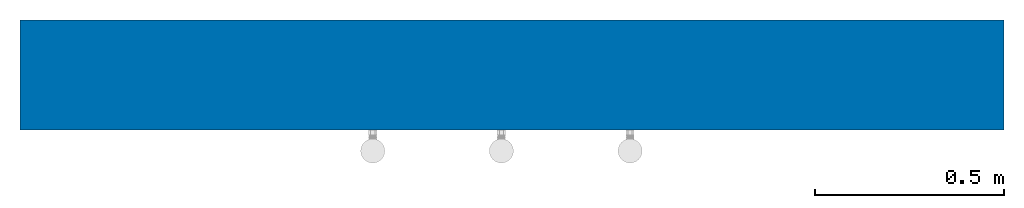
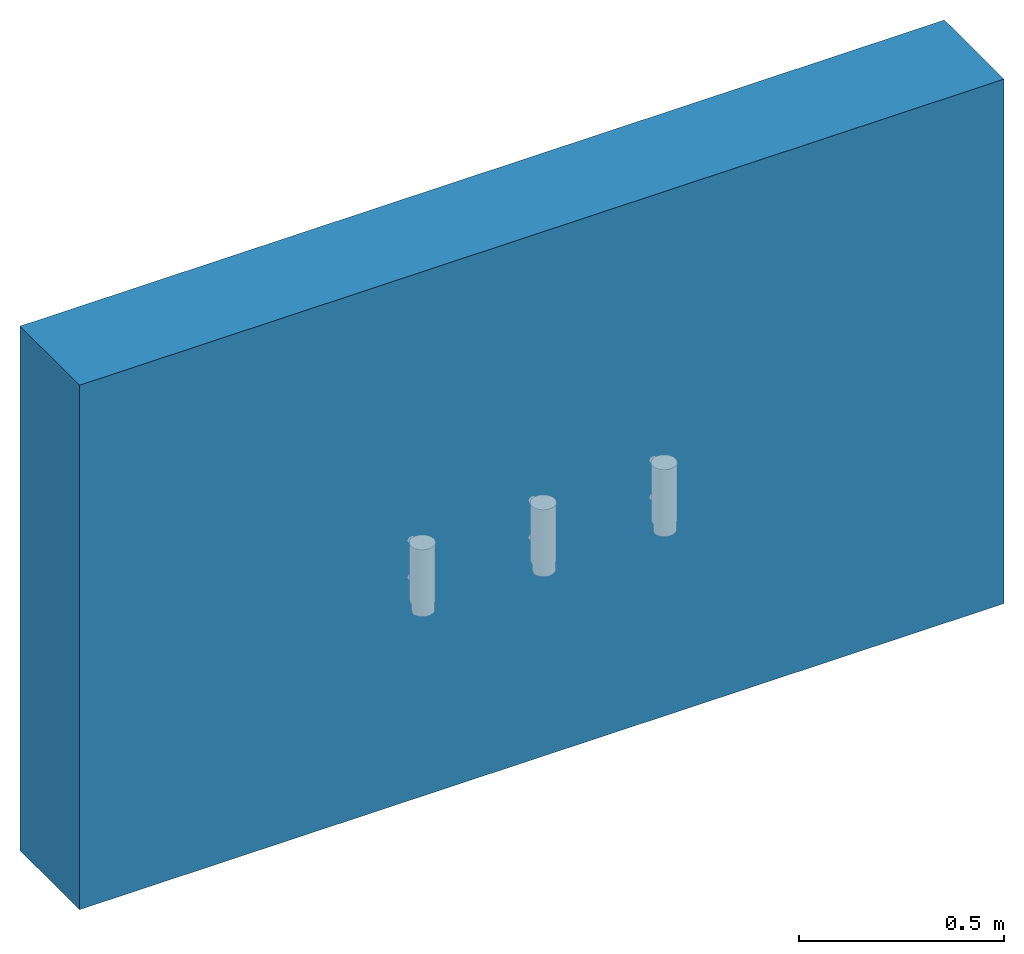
# One storey, incomplete: 1 wall.
"""IFC2X3 building model written with IfcOpenShell, lengths in millimetres."""

from ifc_helpers import new_model, entity, si_unit, converted_unit, derived_unit, direction, frame, frame_2d, origin, place, context, subcontext, project, spatial, rectangle, extrude, material, layer, layer_set, layer_usage, type_object, element, save


model = new_model("IFC2X3")

# Units and contexts
model_context = context("Model", 3, precision=0.01, world=origin(), true_north=direction((6.12303176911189e-17, 1.0)))
context_of_model = context(None, 3, precision=0.01, world=origin(), true_north=direction((6.12303176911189e-17, 1.0)))
body_context = subcontext(model_context, "Body", "Model", "MODEL_VIEW")
ifc_project = project(units=[si_unit("LENGTHUNIT", "METRE", prefix="MILLI"), si_unit("AREAUNIT", "SQUARE_METRE"), si_unit("VOLUMEUNIT", "CUBIC_METRE"), converted_unit("PLANEANGLEUNIT", "DEGREE", entity("IfcRatioMeasure", 0.0174532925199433), si_unit("PLANEANGLEUNIT", "RADIAN"), dimensions=[0, 0, 0, 0, 0, 0, 0]), si_unit("MASSUNIT", "GRAM", prefix="KILO"), derived_unit("MASSDENSITYUNIT", [(si_unit("MASSUNIT", "GRAM", prefix="KILO"), 1), (si_unit("LENGTHUNIT", "METRE"), -3)]), si_unit("TIMEUNIT", "SECOND"), si_unit("FREQUENCYUNIT", "HERTZ"), si_unit("THERMODYNAMICTEMPERATUREUNIT", "DEGREE_CELSIUS"), derived_unit("THERMALTRANSMITTANCEUNIT", [(si_unit("MASSUNIT", "GRAM", prefix="KILO"), 1), (si_unit("THERMODYNAMICTEMPERATUREUNIT", "KELVIN"), -1), (si_unit("TIMEUNIT", "SECOND"), -3)]), derived_unit("VOLUMETRICFLOWRATEUNIT", [(si_unit("LENGTHUNIT", "METRE"), 3), (si_unit("TIMEUNIT", "SECOND"), -1)]), si_unit("ELECTRICCURRENTUNIT", "AMPERE"), si_unit("ELECTRICVOLTAGEUNIT", "VOLT"), si_unit("POWERUNIT", "WATT"), si_unit("FORCEUNIT", "NEWTON", prefix="KILO"), si_unit("ILLUMINANCEUNIT", "LUX"), si_unit("LUMINOUSFLUXUNIT", "LUMEN"), si_unit("LUMINOUSINTENSITYUNIT", "CANDELA"), derived_unit("USERDEFINED", [(si_unit("MASSUNIT", "GRAM", prefix="KILO"), -1), (si_unit("LENGTHUNIT", "METRE"), -2), (si_unit("TIMEUNIT", "SECOND"), 3), (si_unit("LUMINOUSFLUXUNIT", "LUMEN"), 1)]), derived_unit("LINEARVELOCITYUNIT", [(si_unit("LENGTHUNIT", "METRE"), 1), (si_unit("TIMEUNIT", "SECOND"), -1)]), si_unit("PRESSUREUNIT", "PASCAL"), derived_unit("USERDEFINED", [(si_unit("LENGTHUNIT", "METRE"), -2), (si_unit("MASSUNIT", "GRAM", prefix="KILO"), 1), (si_unit("TIMEUNIT", "SECOND"), -2)])], contexts=[model_context, context_of_model])

# Site, building, storey
site_placement = place(None, origin())
site = spatial("IfcSite", under=ifc_project, at=site_placement, CompositionType="ELEMENT")
building_placement = place(site_placement, origin())
building = spatial("IfcBuilding", under=site, at=building_placement, Name="Project Number", CompositionType="ELEMENT")
storey_placement = place(building_placement, origin())
storey = spatial("IfcBuildingStorey", under=building, at=storey_placement, Name="Level 0", CompositionType="ELEMENT", Elevation=0.0)

# Wall
ifc_material_1 = material(Name="Brick, Common")
ifc_layer_1 = layer(ifc_material_1, 102.5)
ifc_material_2 = material(Name="Fiberglass Batt")
ifc_layer_2 = layer(ifc_material_2, 75.0)
ifc_material_3 = material(Name="Concrete Masonry Units _Low Density")
ifc_layer_3 = layer(ifc_material_3, 100.0)
ifc_material_4 = material(Name="Plaster")
ifc_layer_4 = layer(ifc_material_4, 12.5)
ifc_layer_set = layer_set([ifc_layer_1, ifc_layer_2, ifc_layer_3, ifc_layer_4], Name="Basic Wall:Wall-Ext_102Bwk-75Ins-100LBlk-12P")
ifc_layer_usage = layer_usage(ifc_layer_set, "AXIS2", "NEGATIVE", 145.0)
wall_type = type_object("IfcWallType", Name="(2)", PredefinedType="STANDARD", material=ifc_layer_set)
wall_placement = place(storey_placement, frame((-6857.18149214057, -304.72622355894, 0.0)))
element("IfcWallStandardCase", 1, at=wall_placement, inside=storey, type_object=wall_type, material=ifc_layer_usage, ObjectType="Basic Wall:Wall-Ext_102Bwk-75Ins-100LBlk-12P", context=body_context, shape_type="SweptSolid", body=[
    extrude(rectangle(XDim=2600.0, YDim=290.0, at=frame_2d((1300.0, 0.0), x_axis=(-1.0, 0.0))), origin(), (0.0, 0.0, 1.0), 1559.44929948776),
])

save(model, "model.ifc")
